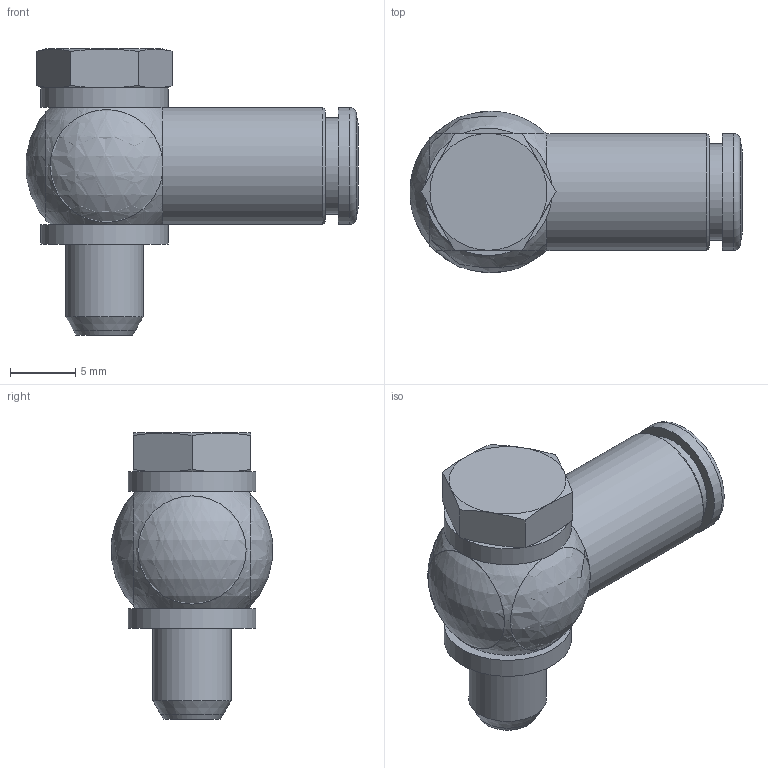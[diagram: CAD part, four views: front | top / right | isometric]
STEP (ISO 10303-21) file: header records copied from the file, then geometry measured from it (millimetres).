
FILE_DESCRIPTION(('Bauteilbeschreibung','HiCAD-Model','HiCAD-STEP-TRANSLATION','Bauteilbeschreibung'),'2;1');
FILE_NAME('B:/ABGLEICH/ZEICHNUNGEN/STEP FÜR INTERNET/STEP/S11215_IPSO_017_4_M6.STP','2011-08-25T12:25:15+00:00',('Konstrukteur'),('Konstrukteur Firma GmbH'),' HiCAD neXt 2008, Step 3.1.1401.2J ','HiCAD neXt 2008','confidential');
FILE_SCHEMA(('AUTOMOTIVE_DESIGN { 1 2 10303 214 0 1 1 1 }'));
Length unit declared in the file: millimetre
Products named in the file (8): S11215_IPSO_017_4_M6; A00019; A000190; A4112; A41120; DIN 13_M6; DR4_1_NEU; R201215_N
Assembly tree (7 placements, depth 3):
  S11215_IPSO_017_4_M6
    A00019
    A000190
    A4112
    A41120
      DIN 13_M6
    DR4_1_NEU
    R201215_N
Bounding box: 25.54 x 12.41 x 22 mm (x, y, z)
Volume: 981.6 mm3; surface area: 4392 mm2
Topology: 5 solids, 9 shells, 84 faces, 179 edges, 104 vertices
Faces by surface type: cone 29, plane 25, cylinder 24, sphere 5, torus 1
Full cylindrical faces by diameter (mm): 2 x4, 3 x1, 4.1 x2, 4.773 x2, 5 x1, 6 x3, 6.1 x1, 6.4 x3, 7.3 x1, 7.4 x1, 7.6 x1, 9 x2, 9.8 x2
Entity records: 4477 total; most frequent: CARTESIAN_POINT 2287, DIRECTION 346, ORIENTED_EDGE 218, AXIS2_PLACEMENT_3D 170, EDGE_LOOP 144, COLOUR_RGB 112, PRESENTATION_STYLE_ASSIGNMENT 112, EDGE_CURVE 109
